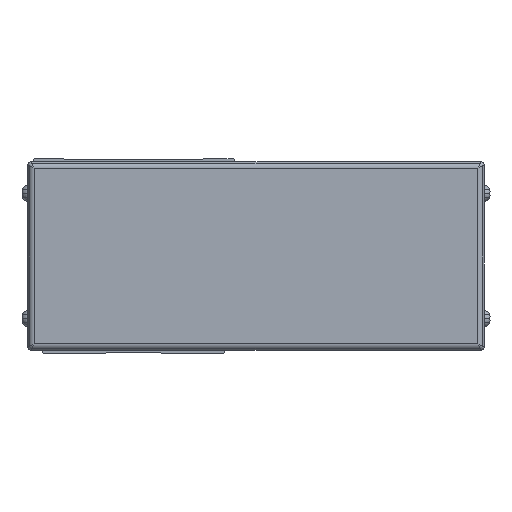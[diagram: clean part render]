
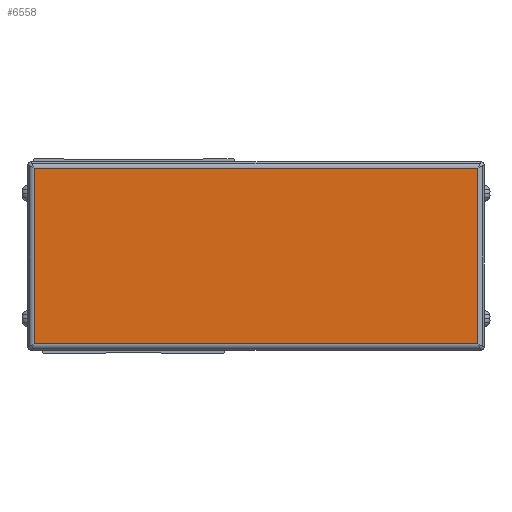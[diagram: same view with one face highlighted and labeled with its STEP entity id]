
A CAD part, front view. The second image highlights one B-rep face of the part: STEP entity #6558.
In plain terms, the highlighted planar face has unit normal (0, -1, 0).
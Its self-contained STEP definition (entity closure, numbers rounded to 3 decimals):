
#6558=ADVANCED_FACE('',(#13445),#13446,.T.);
#13445=FACE_OUTER_BOUND('',#21726,.T.);
#13446=PLANE('',#21727);
#21726=EDGE_LOOP('',(#39899,#39900,#39901,#39902));
#21727=AXIS2_PLACEMENT_3D('',#39903,#39904,#39905);
#39899=ORIENTED_EDGE('',*,*,#45492,.F.);
#39900=ORIENTED_EDGE('',*,*,#51220,.F.);
#39901=ORIENTED_EDGE('',*,*,#45473,.F.);
#39902=ORIENTED_EDGE('',*,*,#50355,.F.);
#39903=CARTESIAN_POINT('',(339.,-94.,-4.));
#39904=DIRECTION('',(0.,-1.0,0.));
#39905=DIRECTION('',(0.,0.,1.0));
#45473=EDGE_CURVE('',#54509,#54511,#54512,.T.);
#45492=EDGE_CURVE('',#54541,#54543,#54544,.T.);
#50355=EDGE_CURVE('',#54543,#54509,#62050,.T.);
#51220=EDGE_CURVE('',#54511,#54541,#63190,.T.);
#54509=VERTEX_POINT('',#67248);
#54511=VERTEX_POINT('',#67250);
#54512=LINE('',#67251,#67252);
#54541=VERTEX_POINT('',#67290);
#54543=VERTEX_POINT('',#67292);
#54544=LINE('',#67293,#67294);
#62050=LINE('',#78023,#78024);
#63190=LINE('',#79644,#79645);
#67248=CARTESIAN_POINT('',(409.7,-94.,-32.));
#67250=CARTESIAN_POINT('',(268.3,-94.,-32.));
#67251=CARTESIAN_POINT('',(339.,-94.,-32.));
#67252=VECTOR('',#83231,10.0);
#67290=CARTESIAN_POINT('',(268.3,-94.,24.));
#67292=CARTESIAN_POINT('',(409.7,-94.,24.));
#67293=CARTESIAN_POINT('',(339.,-94.,24.));
#67294=VECTOR('',#83256,10.0);
#78023=CARTESIAN_POINT('',(409.7,-94.,-4.));
#78024=VECTOR('',#89119,10.0);
#79644=CARTESIAN_POINT('',(268.3,-94.,-4.));
#79645=VECTOR('',#90034,10.0);
#83231=DIRECTION('',(-1.0,0.,0.));
#83256=DIRECTION('',(1.0,0.,0.));
#89119=DIRECTION('',(0.,0.,-1.0));
#90034=DIRECTION('',(0.,0.,1.0));
